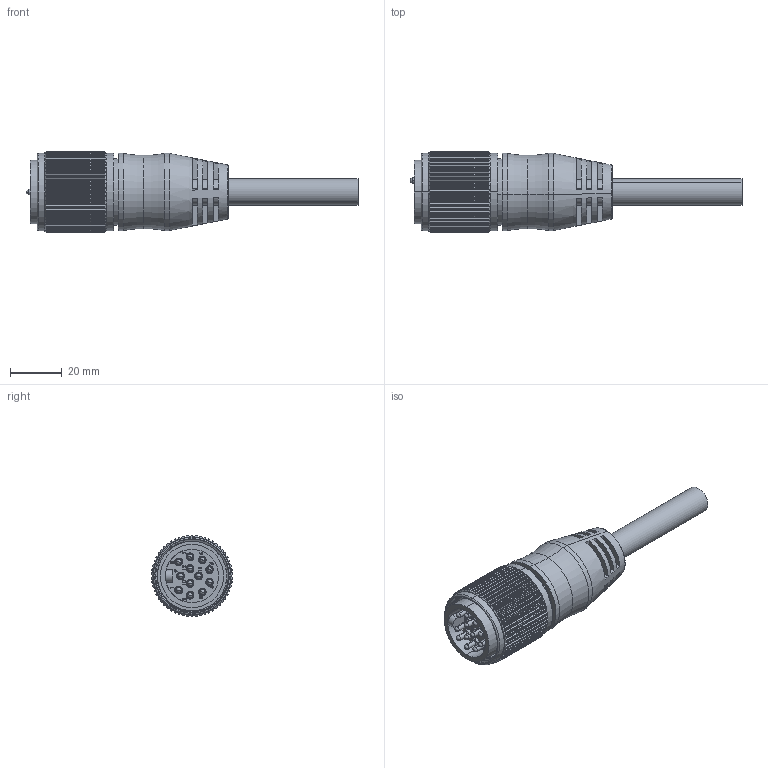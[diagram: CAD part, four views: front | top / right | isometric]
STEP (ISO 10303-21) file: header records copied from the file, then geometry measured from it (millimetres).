
FILE_DESCRIPTION (( 'STEP AP214' ), '1' );
FILE_NAME ('MINP-12MPX-ZZ.STEP', '2018-08-07T15:34:52', ( 'Mencom User' ), ( 'Hewlett-Packard Company' ), 'SwSTEP 2.0', 'SolidWorks 2017', '' );
FILE_SCHEMA (( 'AUTOMOTIVE_DESIGN' ));
Length unit declared in the file: millimetre
Products named in the file (1): MINP-12MPX-ZZ
Bounding box: 128.89 x 31.47 x 31.5 mm (x, y, z)
Volume: 48711.7 mm3; surface area: 15834.1 mm2
Topology: 1 solids, 1 shells, 790 faces, 2154 edges, 1409 vertices
Faces by surface type: cylinder 349, plane 288, bspline 81, cone 36, sphere 24, torus 12
Entity records: 40284 total; most frequent: CARTESIAN_POINT 13290, ORIENTED_EDGE 4260, DIRECTION 3120, EDGE_CURVE 2130, VERTEX_POINT 1409, AXIS2_PLACEMENT_3D 1124, VECTOR 872, LINE 872
